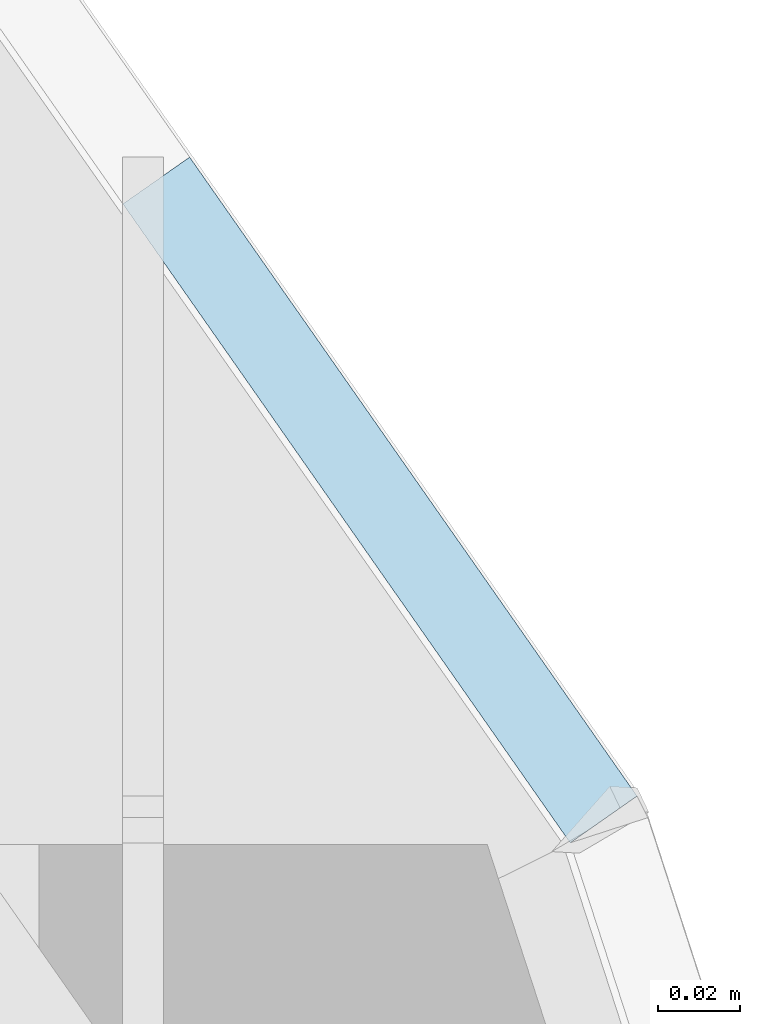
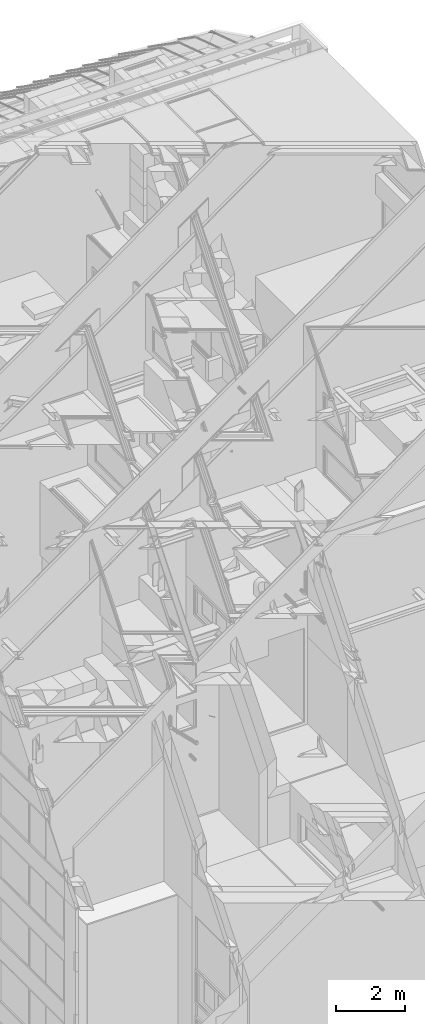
# One storey, part 312 of 583: 2 slabs.
"""IFC2X3 building model written with IfcOpenShell, lengths in metres."""

from ifc_helpers import new_model, entity, si_unit, converted_unit, derived_unit, money_unit, direction, frame, origin_with_axes, place, context, subcontext, project, spatial, faceted_brep, material, type_object, element, save


model = new_model("IFC2X3")

# Units and contexts
model_context = context("Model", 3, precision=1e-05, world=origin_with_axes(), true_north=direction((0.0, 1.0)))
body_context = subcontext(model_context, "Body", "Model", "MODEL_VIEW", scale=1.0)
ifc_project = project(units=[si_unit("LENGTHUNIT", "METRE"), si_unit("AREAUNIT", "SQUARE_METRE"), si_unit("VOLUMEUNIT", "CUBIC_METRE"), si_unit("ABSORBEDDOSEUNIT", "GRAY"), si_unit("AMOUNTOFSUBSTANCEUNIT", "MOLE"), si_unit("DOSEEQUIVALENTUNIT", "SIEVERT"), si_unit("ELECTRICCAPACITANCEUNIT", "FARAD"), si_unit("ELECTRICCHARGEUNIT", "COULOMB"), si_unit("ELECTRICCONDUCTANCEUNIT", "SIEMENS"), si_unit("ELECTRICCURRENTUNIT", "AMPERE"), si_unit("ELECTRICRESISTANCEUNIT", "OHM"), si_unit("ELECTRICVOLTAGEUNIT", "VOLT"), si_unit("ENERGYUNIT", "JOULE"), si_unit("FORCEUNIT", "NEWTON"), si_unit("FREQUENCYUNIT", "HERTZ"), si_unit("ILLUMINANCEUNIT", "LUX"), si_unit("INDUCTANCEUNIT", "HENRY"), si_unit("LUMINOUSFLUXUNIT", "LUMEN"), si_unit("LUMINOUSINTENSITYUNIT", "CANDELA"), si_unit("MAGNETICFLUXDENSITYUNIT", "TESLA"), si_unit("MAGNETICFLUXUNIT", "WEBER"), si_unit("MASSUNIT", "GRAM"), converted_unit("PLANEANGLEUNIT", "degree", entity("IfcReal", 0.0174532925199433), si_unit("PLANEANGLEUNIT", "RADIAN"), dimensions=[0, 0, 0, 0, 0, 0, 0]), si_unit("POWERUNIT", "WATT"), si_unit("PRESSUREUNIT", "PASCAL"), si_unit("RADIOACTIVITYUNIT", "BECQUEREL"), si_unit("SOLIDANGLEUNIT", "STERADIAN"), si_unit("THERMODYNAMICTEMPERATUREUNIT", "KELVIN"), si_unit("TIMEUNIT", "SECOND"), derived_unit("ACCELERATIONUNIT", [(si_unit("LENGTHUNIT", "METRE"), 1), (si_unit("TIMEUNIT", "SECOND"), -2)]), derived_unit("ANGULARVELOCITYUNIT", [(converted_unit("PLANEANGLEUNIT", "degree", entity("IfcReal", 0.0174532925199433), si_unit("PLANEANGLEUNIT", "RADIAN"), dimensions=[0, 0, 0, 0, 0, 0, 0]), 1), (si_unit("TIMEUNIT", "SECOND"), -1)]), derived_unit("CURVATUREUNIT", [(converted_unit("PLANEANGLEUNIT", "degree", entity("IfcReal", 0.0174532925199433), si_unit("PLANEANGLEUNIT", "RADIAN"), dimensions=[0, 0, 0, 0, 0, 0, 0]), 1), (si_unit("LENGTHUNIT", "METRE"), -1)]), derived_unit("DYNAMICVISCOSITYUNIT", [(si_unit("PRESSUREUNIT", "PASCAL"), 1), (si_unit("TIMEUNIT", "SECOND"), 1)]), derived_unit("HEATFLUXDENSITYUNIT", [(si_unit("POWERUNIT", "WATT"), 1), (si_unit("LENGTHUNIT", "METRE"), -2)]), derived_unit("HEATINGVALUEUNIT", [(si_unit("ENERGYUNIT", "JOULE"), 1), (si_unit("MASSUNIT", "GRAM"), -1)]), derived_unit("INTEGERCOUNTRATEUNIT", [(si_unit("TIMEUNIT", "SECOND"), -1)]), derived_unit("IONCONCENTRATIONUNIT", [(si_unit("MASSUNIT", "GRAM"), 1), (si_unit("VOLUMEUNIT", "CUBIC_METRE"), -1)]), derived_unit("ISOTHERMALMOISTURECAPACITYUNIT", [(si_unit("VOLUMEUNIT", "CUBIC_METRE"), 1), (si_unit("MASSUNIT", "GRAM"), -1)]), derived_unit("KINEMATICVISCOSITYUNIT", [(si_unit("AREAUNIT", "SQUARE_METRE"), 1), (si_unit("TIMEUNIT", "SECOND"), -1)]), derived_unit("LINEARFORCEUNIT", [(si_unit("FORCEUNIT", "NEWTON"), 1), (si_unit("LENGTHUNIT", "METRE"), -1)]), derived_unit("LINEARMOMENTUNIT", [(si_unit("FORCEUNIT", "NEWTON"), 1), (si_unit("LENGTHUNIT", "METRE"), -1)]), derived_unit("LINEARSTIFFNESSUNIT", [(si_unit("FORCEUNIT", "NEWTON"), 1), (si_unit("LENGTHUNIT", "METRE"), -1)]), derived_unit("LINEARVELOCITYUNIT", [(si_unit("LENGTHUNIT", "METRE"), 1), (si_unit("TIMEUNIT", "SECOND"), -1)]), derived_unit("LUMINOUSINTENSITYDISTRIBUTIONUNIT", [(si_unit("LUMINOUSINTENSITYUNIT", "CANDELA"), 1), (si_unit("LUMINOUSFLUXUNIT", "LUMEN"), -1)]), derived_unit("MASSDENSITYUNIT", [(si_unit("MASSUNIT", "GRAM"), 1), (si_unit("VOLUMEUNIT", "CUBIC_METRE"), -1)]), derived_unit("MASSFLOWRATEUNIT", [(si_unit("MASSUNIT", "GRAM"), 1), (si_unit("TIMEUNIT", "SECOND"), -1)]), derived_unit("MASSPERLENGTHUNIT", [(si_unit("MASSUNIT", "GRAM"), 1), (si_unit("LENGTHUNIT", "METRE"), -1)]), derived_unit("MODULUSOFELASTICITYUNIT", [(si_unit("FORCEUNIT", "NEWTON"), 1), (si_unit("AREAUNIT", "SQUARE_METRE"), -1)]), derived_unit("MODULUSOFLINEARSUBGRADEREACTIONUNIT", [(si_unit("FORCEUNIT", "NEWTON"), 1), (si_unit("LENGTHUNIT", "METRE"), -2)]), derived_unit("MODULUSOFROTATIONALSUBGRADEREACTIONUNIT", [(si_unit("FORCEUNIT", "NEWTON"), 1), (si_unit("LENGTHUNIT", "METRE"), 1)]), derived_unit("MODULUSOFSUBGRADEREACTIONUNIT", [(si_unit("FORCEUNIT", "NEWTON"), 1), (si_unit("VOLUMEUNIT", "CUBIC_METRE"), -1)]), derived_unit("MOISTUREDIFFUSIVITYUNIT", [(si_unit("VOLUMEUNIT", "CUBIC_METRE"), 1), (si_unit("TIMEUNIT", "SECOND"), -1)]), derived_unit("MOLECULARWEIGHTUNIT", [(si_unit("MASSUNIT", "GRAM"), 1), (si_unit("AMOUNTOFSUBSTANCEUNIT", "MOLE"), -1)]), derived_unit("PLANARFORCEUNIT", [(si_unit("FORCEUNIT", "NEWTON"), 1), (si_unit("LENGTHUNIT", "METRE"), -2)]), derived_unit("ROTATIONALFREQUENCYUNIT", [(si_unit("TIMEUNIT", "SECOND"), -1)]), derived_unit("ROTATIONALMASSUNIT", [(si_unit("MASSUNIT", "GRAM"), 1), (si_unit("LENGTHUNIT", "METRE"), 2)]), derived_unit("ROTATIONALSTIFFNESSUNIT", [(si_unit("FORCEUNIT", "NEWTON"), 1), (si_unit("LENGTHUNIT", "METRE"), 1), (converted_unit("PLANEANGLEUNIT", "degree", entity("IfcReal", 0.0174532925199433), si_unit("PLANEANGLEUNIT", "RADIAN"), dimensions=[0, 0, 0, 0, 0, 0, 0]), -1)]), derived_unit("SECTIONAREAINTEGRALUNIT", [(si_unit("LENGTHUNIT", "METRE"), 5)]), derived_unit("SECTIONMODULUSUNIT", [(si_unit("LENGTHUNIT", "METRE"), 3)]), derived_unit("SHEARMODULUSUNIT", [(si_unit("FORCEUNIT", "NEWTON"), 1), (si_unit("AREAUNIT", "SQUARE_METRE"), -1)]), derived_unit("SOUNDPOWERUNIT", [(si_unit("ENERGYUNIT", "JOULE"), 1), (si_unit("TIMEUNIT", "SECOND"), -1)]), derived_unit("SPECIFICHEATCAPACITYUNIT", [(si_unit("FORCEUNIT", "NEWTON"), 1), (si_unit("MASSUNIT", "GRAM"), -1), (si_unit("THERMODYNAMICTEMPERATUREUNIT", "KELVIN"), -1)]), derived_unit("TEMPERATUREGRADIENTUNIT", [(si_unit("THERMODYNAMICTEMPERATUREUNIT", "KELVIN"), 1), (si_unit("LENGTHUNIT", "METRE"), -1)]), derived_unit("THERMALADMITTANCEUNIT", [(si_unit("POWERUNIT", "WATT"), 1), (si_unit("AREAUNIT", "SQUARE_METRE"), -1), (si_unit("THERMODYNAMICTEMPERATUREUNIT", "KELVIN"), -1)]), derived_unit("THERMALCONDUCTANCEUNIT", [(si_unit("POWERUNIT", "WATT"), 1), (si_unit("LENGTHUNIT", "METRE"), -1), (si_unit("THERMODYNAMICTEMPERATUREUNIT", "KELVIN"), -1)]), derived_unit("THERMALEXPANSIONCOEFFICIENTUNIT", [(si_unit("THERMODYNAMICTEMPERATUREUNIT", "KELVIN"), -1)]), derived_unit("THERMALRESISTANCEUNIT", [(si_unit("AREAUNIT", "SQUARE_METRE"), 1), (si_unit("POWERUNIT", "WATT"), -1)]), derived_unit("THERMALTRANSMITTANCEUNIT", [(si_unit("POWERUNIT", "WATT"), 1), (si_unit("AREAUNIT", "SQUARE_METRE"), -1), (si_unit("THERMODYNAMICTEMPERATUREUNIT", "KELVIN"), -1)]), derived_unit("TORQUEUNIT", [(si_unit("FORCEUNIT", "NEWTON"), 1), (si_unit("LENGTHUNIT", "METRE"), 1)]), derived_unit("VAPORPERMEABILITYUNIT", [(si_unit("MASSUNIT", "GRAM"), 1), (si_unit("TIMEUNIT", "SECOND"), -1)]), derived_unit("VOLUMETRICFLOWRATEUNIT", [(si_unit("VOLUMEUNIT", "CUBIC_METRE"), 1), (si_unit("TIMEUNIT", "SECOND"), -1)]), derived_unit("WARPINGCONSTANTUNIT", [(si_unit("LENGTHUNIT", "METRE"), 6)]), derived_unit("WARPINGMOMENTUNIT", [(si_unit("FORCEUNIT", "NEWTON"), 1), (si_unit("LENGTHUNIT", "METRE"), 2)]), money_unit("GBP")], contexts=[model_context])

# Site, building, storey
site_placement = place(None, origin_with_axes())
site = spatial("IfcSite", under=ifc_project, at=site_placement, Name="Site", CompositionType="ELEMENT")
building_placement = place(site_placement, origin_with_axes())
building = spatial("IfcBuilding", under=site, at=building_placement, Name="Building01", CompositionType="ELEMENT")
storey_placement = place(building_placement, frame((0.0, 0.0, 20.78), z_axis=(0.0, 0.0, 1.0), x_axis=(1.0, 0.0, 0.0)))
storey = spatial("IfcBuildingStorey", under=building, at=storey_placement, Name="RL", CompositionType="ELEMENT", Elevation=20.78)

# Slabs
ifc_material = material(Name="A_BSUK_Roofs")
slab_type = type_object("IfcSlabType", Name="A-FloorsSlabs A_BSUK_Slabs", PredefinedType="FLOOR")
slab_1_placement = place(storey_placement, frame((13.56574, 18.780461, 4.760024), z_axis=(0.0, 1.0, 0.0), x_axis=(0.0, 0.0, -1.0)))
element("IfcSlab", 1, at=slab_1_placement, inside=storey, type_object=slab_type, material=ifc_material, Name="A-FloorsSlabs A_BSUK_Slabs", ObjectType="A-FloorsSlabs A_BSUK_Slabs", context=body_context, shape_type="Brep", body=[
    faceted_brep([(0.0, 0.109715, 0.15669), (0.0, 0.093332, 0.168161), (0.0, -0.016383, 0.011472), (0.0, 0.0, 0.0), (-0.01, -0.016383, 0.011472), (-0.01, 0.0, 0.0), (-0.01, 0.093332, 0.168161), (-0.01, 0.109715, 0.15669)], [[[0, 1, 2, 3]], [[3, 2, 4, 5]], [[5, 4, 6, 7]], [[7, 6, 1, 0]], [[1, 6, 4, 2]], [[3, 5, 7, 0]]]),
])
slab_2_placement = place(storey_placement, frame((13.56574, 18.780461, -19.319976), z_axis=(0.0, 1.0, 0.0), x_axis=(0.0, 0.0, -1.0)))
element("IfcSlab", 2, at=slab_2_placement, inside=storey, type_object=slab_type, material=ifc_material, Name="A-FloorsSlabs A_BSUK_Slabs", ObjectType="A-FloorsSlabs A_BSUK_Slabs", context=body_context, shape_type="Brep", body=[
    faceted_brep([(0.0, 0.0, 0.0), (0.0, -0.016383, 0.011472), (0.0, 0.093332, 0.168161), (0.0, 0.109715, 0.15669), (0.01, 0.0, 0.0), (0.01, -0.016383, 0.011472), (0.01, 0.109715, 0.15669), (0.01, 0.093332, 0.168161)], [[[0, 1, 2, 3]], [[4, 5, 1, 0]], [[6, 7, 5, 4]], [[3, 2, 7, 6]], [[1, 5, 7, 2]], [[3, 6, 4, 0]]]),
])

save(model, "model.ifc")
